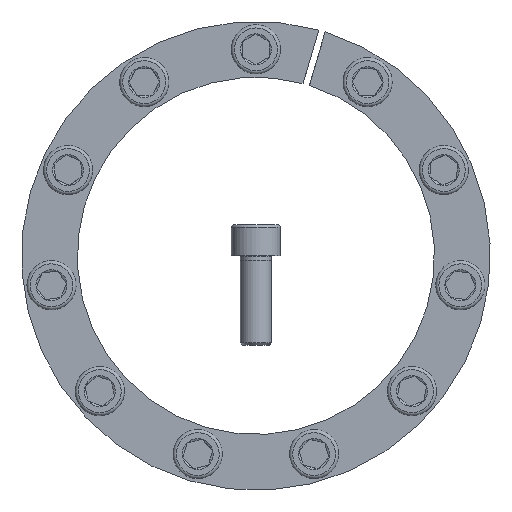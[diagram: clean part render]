
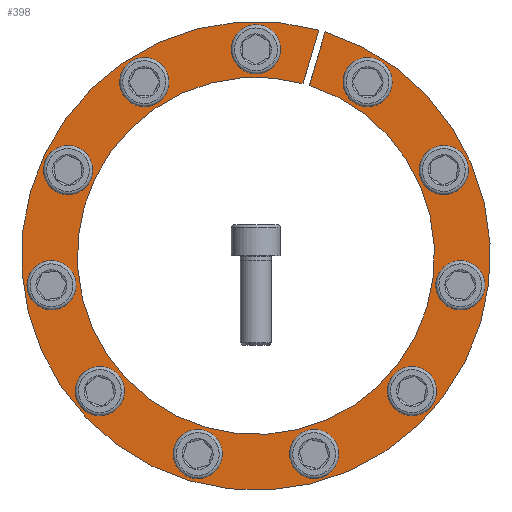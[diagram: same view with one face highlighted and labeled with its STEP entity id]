
A CAD part, front view. The second image highlights one B-rep face of the part: STEP entity #398.
In plain terms, the highlighted planar face has unit normal (0, -1, 0).
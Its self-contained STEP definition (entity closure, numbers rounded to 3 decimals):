
#398 = ADVANCED_FACE( '', ( #607, #608, #609, #610, #611, #612, #613, #614, #615, #616, #617, #618 ), #619, .F. );
#607 = FACE_BOUND( '', #801, .T. );
#608 = FACE_BOUND( '', #802, .T. );
#609 = FACE_BOUND( '', #803, .T. );
#610 = FACE_BOUND( '', #804, .T. );
#611 = FACE_BOUND( '', #805, .T. );
#612 = FACE_OUTER_BOUND( '', #806, .T. );
#613 = FACE_BOUND( '', #807, .T. );
#614 = FACE_BOUND( '', #808, .T. );
#615 = FACE_BOUND( '', #809, .T. );
#616 = FACE_BOUND( '', #810, .T. );
#617 = FACE_BOUND( '', #811, .T. );
#618 = FACE_BOUND( '', #812, .T. );
#619 = PLANE( '', #813 );
#801 = EDGE_LOOP( '', ( #1044 ) );
#802 = EDGE_LOOP( '', ( #1045 ) );
#803 = EDGE_LOOP( '', ( #1046 ) );
#804 = EDGE_LOOP( '', ( #1047 ) );
#805 = EDGE_LOOP( '', ( #1048 ) );
#806 = EDGE_LOOP( '', ( #1049, #1050, #1051, #1052 ) );
#807 = EDGE_LOOP( '', ( #1053 ) );
#808 = EDGE_LOOP( '', ( #1054 ) );
#809 = EDGE_LOOP( '', ( #1055 ) );
#810 = EDGE_LOOP( '', ( #1056 ) );
#811 = EDGE_LOOP( '', ( #1057 ) );
#812 = EDGE_LOOP( '', ( #1058 ) );
#813 = AXIS2_PLACEMENT_3D( '', #1059, #1060, #1061 );
#1044 = ORIENTED_EDGE( '', *, *, #1432, .T. );
#1045 = ORIENTED_EDGE( '', *, *, #1433, .T. );
#1046 = ORIENTED_EDGE( '', *, *, #1434, .T. );
#1047 = ORIENTED_EDGE( '', *, *, #1435, .T. );
#1048 = ORIENTED_EDGE( '', *, *, #1436, .T. );
#1049 = ORIENTED_EDGE( '', *, *, #1430, .F. );
#1050 = ORIENTED_EDGE( '', *, *, #1426, .F. );
#1051 = ORIENTED_EDGE( '', *, *, #1437, .T. );
#1052 = ORIENTED_EDGE( '', *, *, #1438, .F. );
#1053 = ORIENTED_EDGE( '', *, *, #1439, .T. );
#1054 = ORIENTED_EDGE( '', *, *, #1440, .T. );
#1055 = ORIENTED_EDGE( '', *, *, #1441, .T. );
#1056 = ORIENTED_EDGE( '', *, *, #1442, .T. );
#1057 = ORIENTED_EDGE( '', *, *, #1443, .T. );
#1058 = ORIENTED_EDGE( '', *, *, #1444, .T. );
#1059 = CARTESIAN_POINT( '', ( 0., 0., 105. ) );
#1060 = DIRECTION( '', ( 0., 1., 0. ) );
#1061 = DIRECTION( '', ( 0., 0., 1. ) );
#1426 = EDGE_CURVE( '', #1573, #1575, #1576, .T. );
#1430 = EDGE_CURVE( '', #1575, #1582, #1583, .T. );
#1432 = EDGE_CURVE( '', #1585, #1585, #1586, .T. );
#1433 = EDGE_CURVE( '', #1587, #1587, #1588, .T. );
#1434 = EDGE_CURVE( '', #1589, #1589, #1590, .T. );
#1435 = EDGE_CURVE( '', #1591, #1591, #1592, .T. );
#1436 = EDGE_CURVE( '', #1593, #1593, #1594, .T. );
#1437 = EDGE_CURVE( '', #1573, #1595, #1596, .T. );
#1438 = EDGE_CURVE( '', #1582, #1595, #1597, .T. );
#1439 = EDGE_CURVE( '', #1598, #1598, #1599, .T. );
#1440 = EDGE_CURVE( '', #1600, #1600, #1601, .T. );
#1441 = EDGE_CURVE( '', #1602, #1602, #1603, .T. );
#1442 = EDGE_CURVE( '', #1604, #1604, #1605, .T. );
#1443 = EDGE_CURVE( '', #1606, #1606, #1607, .T. );
#1444 = EDGE_CURVE( '', #1608, #1608, #1609, .T. );
#1573 = VERTEX_POINT( '', #1725 );
#1575 = VERTEX_POINT( '', #1728 );
#1576 = LINE( '', #1729, #1730 );
#1582 = VERTEX_POINT( '', #1738 );
#1583 = CIRCLE( '', #1739, 80. );
#1585 = VERTEX_POINT( '', #1742 );
#1586 = CIRCLE( '', #1743, 7. );
#1587 = VERTEX_POINT( '', #1744 );
#1588 = CIRCLE( '', #1745, 7. );
#1589 = VERTEX_POINT( '', #1746 );
#1590 = CIRCLE( '', #1747, 7. );
#1591 = VERTEX_POINT( '', #1748 );
#1592 = CIRCLE( '', #1749, 7. );
#1593 = VERTEX_POINT( '', #1750 );
#1594 = CIRCLE( '', #1751, 7. );
#1595 = VERTEX_POINT( '', #1752 );
#1596 = CIRCLE( '', #1753, 105. );
#1597 = LINE( '', #1754, #1755 );
#1598 = VERTEX_POINT( '', #1756 );
#1599 = CIRCLE( '', #1757, 7. );
#1600 = VERTEX_POINT( '', #1758 );
#1601 = CIRCLE( '', #1759, 7. );
#1602 = VERTEX_POINT( '', #1760 );
#1603 = CIRCLE( '', #1761, 7. );
#1604 = VERTEX_POINT( '', #1762 );
#1605 = CIRCLE( '', #1763, 7. );
#1606 = VERTEX_POINT( '', #1764 );
#1607 = CIRCLE( '', #1765, 7. );
#1608 = VERTEX_POINT( '', #1766 );
#1609 = CIRCLE( '', #1767, 7. );
#1725 = CARTESIAN_POINT( '', ( 28.14, 0., 101.159 ) );
#1728 = CARTESIAN_POINT( '', ( 21.095, 0., 77.169 ) );
#1729 = CARTESIAN_POINT( '', ( 28.143, 0., 101.169 ) );
#1730 = VECTOR( '', #1872, 1000. );
#1738 = CARTESIAN_POINT( '', ( 23.974, 0., 76.323 ) );
#1739 = AXIS2_PLACEMENT_3D( '', #1878, #1879, #1880 );
#1742 = CARTESIAN_POINT( '', ( -81.233, 0., 44.793 ) );
#1743 = AXIS2_PLACEMENT_3D( '', #1882, #1883, #1884 );
#1744 = CARTESIAN_POINT( '', ( -74.491, 0., -55.284 ) );
#1745 = AXIS2_PLACEMENT_3D( '', #1885, #1886, #1887 );
#1746 = CARTESIAN_POINT( '', ( 19.344, 0., -90.725 ) );
#1747 = AXIS2_PLACEMENT_3D( '', #1888, #1889, #1890 );
#1748 = CARTESIAN_POINT( '', ( 90.562, 0., -20.093 ) );
#1749 = AXIS2_PLACEMENT_3D( '', #1891, #1892, #1893 );
#1750 = CARTESIAN_POINT( '', ( 55.898, 0., 74.031 ) );
#1751 = AXIS2_PLACEMENT_3D( '', #1894, #1895, #1896 );
#1752 = CARTESIAN_POINT( '', ( 31.018, 0., 100.314 ) );
#1753 = AXIS2_PLACEMENT_3D( '', #1897, #1898, #1899 );
#1754 = CARTESIAN_POINT( '', ( 23.974, 0., 76.323 ) );
#1755 = VECTOR( '', #1900, 1000. );
#1756 = CARTESIAN_POINT( '', ( 7., 0., 92.5 ) );
#1757 = AXIS2_PLACEMENT_3D( '', #1901, #1902, #1903 );
#1758 = CARTESIAN_POINT( '', ( 87.049, 0., 32.058 ) );
#1759 = AXIS2_PLACEMENT_3D( '', #1904, #1905, #1906 );
#1760 = CARTESIAN_POINT( '', ( 65.323, 0., -65.865 ) );
#1761 = AXIS2_PLACEMENT_3D( '', #1907, #1908, #1909 );
#1762 = CARTESIAN_POINT( '', ( -32.777, 0., -86.781 ) );
#1763 = AXIS2_PLACEMENT_3D( '', #1910, #1911, #1912 );
#1764 = CARTESIAN_POINT( '', ( -92.555, 0., -6.235 ) );
#1765 = AXIS2_PLACEMENT_3D( '', #1913, #1914, #1915 );
#1766 = CARTESIAN_POINT( '', ( -44.121, 0., 81.6 ) );
#1767 = AXIS2_PLACEMENT_3D( '', #1916, #1917, #1918 );
#1872 = DIRECTION( '', ( -0.282, 0., -0.959 ) );
#1878 = CARTESIAN_POINT( '', ( 0., 0., 0. ) );
#1879 = DIRECTION( '', ( 0., -1., 0. ) );
#1880 = DIRECTION( '', ( 0., 0., -1. ) );
#1882 = CARTESIAN_POINT( '', ( -84.141, 0., 38.426 ) );
#1883 = DIRECTION( '', ( 0., 1., 0. ) );
#1884 = DIRECTION( '', ( 0.415, 0., 0.91 ) );
#1885 = CARTESIAN_POINT( '', ( -69.907, 0., -60.575 ) );
#1886 = DIRECTION( '', ( 0., 1., 0. ) );
#1887 = DIRECTION( '', ( -0.655, 0., 0.756 ) );
#1888 = CARTESIAN_POINT( '', ( 26.06, 0., -88.753 ) );
#1889 = DIRECTION( '', ( 0., 1., 0. ) );
#1890 = DIRECTION( '', ( -0.959, 0., -0.282 ) );
#1891 = CARTESIAN_POINT( '', ( 91.558, 0., -13.164 ) );
#1892 = DIRECTION( '', ( 0., 1., 0. ) );
#1893 = DIRECTION( '', ( -0.142, 0., -0.99 ) );
#1894 = CARTESIAN_POINT( '', ( 50.009, 0., 77.816 ) );
#1895 = DIRECTION( '', ( 0., 1., 0. ) );
#1896 = DIRECTION( '', ( 0.841, 0., -0.541 ) );
#1897 = CARTESIAN_POINT( '', ( 0., 0., 0. ) );
#1898 = DIRECTION( '', ( 0., -1., 0. ) );
#1899 = DIRECTION( '', ( 0., 0., -1. ) );
#1900 = DIRECTION( '', ( 0.282, 0., 0.959 ) );
#1901 = CARTESIAN_POINT( '', ( 0., 0., 92.5 ) );
#1902 = DIRECTION( '', ( 0., 1., 0. ) );
#1903 = DIRECTION( '', ( 1., 0., 0. ) );
#1904 = CARTESIAN_POINT( '', ( 84.141, 0., 38.426 ) );
#1905 = DIRECTION( '', ( 0., 1., 0. ) );
#1906 = DIRECTION( '', ( 0.415, 0., -0.91 ) );
#1907 = CARTESIAN_POINT( '', ( 69.907, 0., -60.575 ) );
#1908 = DIRECTION( '', ( 0., 1., 0. ) );
#1909 = DIRECTION( '', ( -0.655, 0., -0.756 ) );
#1910 = CARTESIAN_POINT( '', ( -26.06, 0., -88.753 ) );
#1911 = DIRECTION( '', ( 0., 1., 0. ) );
#1912 = DIRECTION( '', ( -0.959, 0., 0.282 ) );
#1913 = CARTESIAN_POINT( '', ( -91.558, 0., -13.164 ) );
#1914 = DIRECTION( '', ( 0., 1., 0. ) );
#1915 = DIRECTION( '', ( -0.142, 0., 0.99 ) );
#1916 = CARTESIAN_POINT( '', ( -50.009, 0., 77.816 ) );
#1917 = DIRECTION( '', ( 0., 1., 0. ) );
#1918 = DIRECTION( '', ( 0.841, 0., 0.541 ) );
